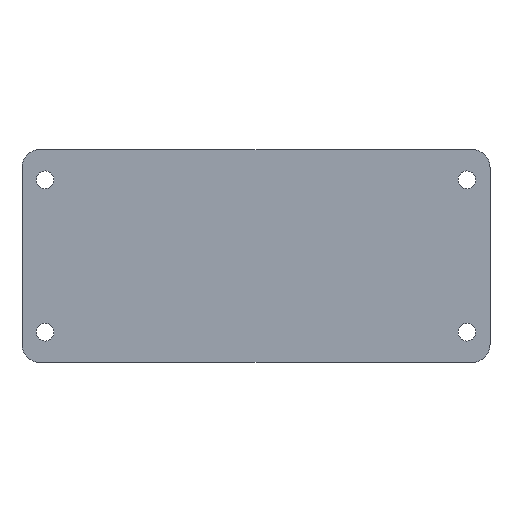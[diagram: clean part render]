
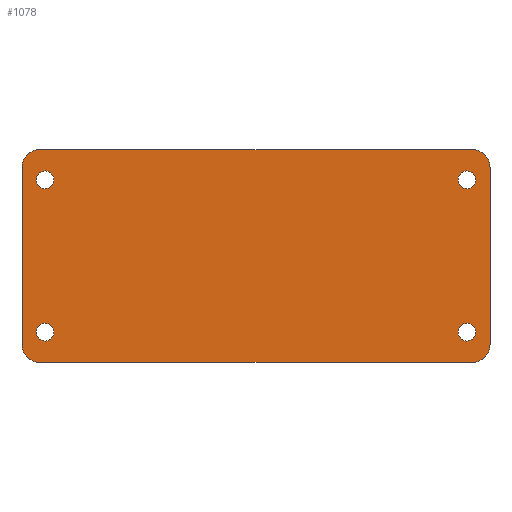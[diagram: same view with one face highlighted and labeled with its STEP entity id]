
A CAD part, front view. The second image highlights one B-rep face of the part: STEP entity #1078.
In plain terms, the highlighted planar face has unit normal (0, -1, 0).
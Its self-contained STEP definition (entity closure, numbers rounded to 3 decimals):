
#1 = FACE_BOUND ( 'NONE', #607, .T. ) ;
#9 = CARTESIAN_POINT ( 'NONE',  ( 61., 0., 30. ) ) ;
#52 = DIRECTION ( 'NONE',  ( 0., 0., 1. ) ) ;
#57 = VECTOR ( 'NONE', #1425, 1000. ) ;
#67 = CARTESIAN_POINT ( 'NONE',  ( 66., 0., -30. ) ) ;
#80 = DIRECTION ( 'NONE',  ( 0., 0., 1. ) ) ;
#81 = FACE_BOUND ( 'NONE', #597, .T. ) ;
#110 = VERTEX_POINT ( 'NONE', #9 ) ;
#112 = DIRECTION ( 'NONE',  ( 0., -1., 0. ) ) ;
#121 = CIRCLE ( 'NONE', #1605, 2.5 ) ;
#124 = DIRECTION ( 'NONE',  ( 0., 0., 1. ) ) ;
#144 = EDGE_CURVE ( 'NONE', #452, #1153, #650, .T. ) ;
#196 = VERTEX_POINT ( 'NONE', #1726 ) ;
#198 = ORIENTED_EDGE ( 'NONE', *, *, #1049, .T. ) ;
#242 = DIRECTION ( 'NONE',  ( 0., 0., 1. ) ) ;
#248 = CARTESIAN_POINT ( 'NONE',  ( -61., 0., -25. ) ) ;
#253 = ORIENTED_EDGE ( 'NONE', *, *, #1187, .T. ) ;
#262 = DIRECTION ( 'NONE',  ( 0., 1., 0. ) ) ;
#263 = DIRECTION ( 'NONE',  ( 0., -1., 0. ) ) ;
#290 = VERTEX_POINT ( 'NONE', #909 ) ;
#296 = CIRCLE ( 'NONE', #1358, 2.5 ) ;
#305 = AXIS2_PLACEMENT_3D ( 'NONE', #248, #112, #991 ) ;
#334 = VERTEX_POINT ( 'NONE', #1705 ) ;
#367 = CARTESIAN_POINT ( 'NONE',  ( -61., 0., 30. ) ) ;
#394 = CARTESIAN_POINT ( 'NONE',  ( 61., 0., -25. ) ) ;
#408 = DIRECTION ( 'NONE',  ( 0., 1., 0. ) ) ;
#416 = ORIENTED_EDGE ( 'NONE', *, *, #1098, .T. ) ;
#435 = EDGE_CURVE ( 'NONE', #1153, #452, #296, .T. ) ;
#436 = EDGE_CURVE ( 'NONE', #334, #1556, #1105, .T. ) ;
#452 = VERTEX_POINT ( 'NONE', #593 ) ;
#481 = EDGE_CURVE ( 'NONE', #888, #290, #1608, .T. ) ;
#512 = ORIENTED_EDGE ( 'NONE', *, *, #435, .T. ) ;
#517 = PLANE ( 'NONE',  #541 ) ;
#523 = VECTOR ( 'NONE', #1626, 1000. ) ;
#525 = DIRECTION ( 'NONE',  ( 0., 0., 1. ) ) ;
#536 = CARTESIAN_POINT ( 'NONE',  ( -66., 0., -25. ) ) ;
#541 = AXIS2_PLACEMENT_3D ( 'NONE', #1374, #1786, #967 ) ;
#555 = DIRECTION ( 'NONE',  ( 1., 0., 0. ) ) ;
#569 = EDGE_CURVE ( 'NONE', #196, #917, #620, .T. ) ;
#570 = VERTEX_POINT ( 'NONE', #600 ) ;
#574 = VERTEX_POINT ( 'NONE', #761 ) ;
#593 = CARTESIAN_POINT ( 'NONE',  ( -59.5, 0., 24. ) ) ;
#595 = CIRCLE ( 'NONE', #1193, 2.5 ) ;
#597 = EDGE_LOOP ( 'NONE', ( #723, #1202 ) ) ;
#599 = EDGE_CURVE ( 'NONE', #1334, #1556, #1385, .T. ) ;
#600 = CARTESIAN_POINT ( 'NONE',  ( 59.5, 0., 24. ) ) ;
#601 = ORIENTED_EDGE ( 'NONE', *, *, #599, .T. ) ;
#607 = EDGE_LOOP ( 'NONE', ( #253, #1189 ) ) ;
#620 = CIRCLE ( 'NONE', #1584, 2.5 ) ;
#650 = CIRCLE ( 'NONE', #1343, 2.5 ) ;
#652 = AXIS2_PLACEMENT_3D ( 'NONE', #1446, #1438, #242 ) ;
#670 = CARTESIAN_POINT ( 'NONE',  ( 66., 0., 30. ) ) ;
#671 = ORIENTED_EDGE ( 'NONE', *, *, #680, .T. ) ;
#679 = CARTESIAN_POINT ( 'NONE',  ( -59.5, 0., -19. ) ) ;
#680 = EDGE_CURVE ( 'NONE', #574, #570, #1488, .T. ) ;
#712 = LINE ( 'NONE', #1120, #57 ) ;
#715 = ORIENTED_EDGE ( 'NONE', *, *, #144, .T. ) ;
#723 = ORIENTED_EDGE ( 'NONE', *, *, #919, .T. ) ;
#724 = VECTOR ( 'NONE', #1505, 1000. ) ;
#725 = LINE ( 'NONE', #67, #523 ) ;
#737 = FACE_BOUND ( 'NONE', #771, .T. ) ;
#752 = ORIENTED_EDGE ( 'NONE', *, *, #836, .F. ) ;
#761 = CARTESIAN_POINT ( 'NONE',  ( 59.5, 0., 19. ) ) ;
#762 = CARTESIAN_POINT ( 'NONE',  ( -59.5, 0., 21.5 ) ) ;
#771 = EDGE_LOOP ( 'NONE', ( #416, #671 ) ) ;
#776 = FACE_OUTER_BOUND ( 'NONE', #1177, .T. ) ;
#799 = EDGE_CURVE ( 'NONE', #1727, #1447, #1255, .T. ) ;
#811 = VECTOR ( 'NONE', #555, 1000. ) ;
#836 = EDGE_CURVE ( 'NONE', #1727, #290, #712, .T. ) ;
#843 = AXIS2_PLACEMENT_3D ( 'NONE', #1316, #408, #1470 ) ;
#868 = CIRCLE ( 'NONE', #1757, 5. ) ;
#881 = ORIENTED_EDGE ( 'NONE', *, *, #799, .T. ) ;
#888 = VERTEX_POINT ( 'NONE', #367 ) ;
#894 = FACE_BOUND ( 'NONE', #1711, .T. ) ;
#909 = CARTESIAN_POINT ( 'NONE',  ( -66., 0., 25. ) ) ;
#917 = VERTEX_POINT ( 'NONE', #679 ) ;
#919 = EDGE_CURVE ( 'NONE', #1350, #1408, #121, .T. ) ;
#923 = CARTESIAN_POINT ( 'NONE',  ( 66., 0., -25. ) ) ;
#924 = AXIS2_PLACEMENT_3D ( 'NONE', #1315, #1218, #1580 ) ;
#967 = DIRECTION ( 'NONE',  ( 0., 0., 1. ) ) ;
#981 = ORIENTED_EDGE ( 'NONE', *, *, #436, .F. ) ;
#991 = DIRECTION ( 'NONE',  ( 0., 0., 1. ) ) ;
#1017 = ORIENTED_EDGE ( 'NONE', *, *, #481, .T. ) ;
#1032 = CARTESIAN_POINT ( 'NONE',  ( 59.5, 0., -19. ) ) ;
#1045 = CARTESIAN_POINT ( 'NONE',  ( 59.5, 0., -24. ) ) ;
#1049 = EDGE_CURVE ( 'NONE', #334, #110, #868, .T. ) ;
#1059 = DIRECTION ( 'NONE',  ( 0., 1., 0. ) ) ;
#1063 = CARTESIAN_POINT ( 'NONE',  ( 59.5, 0., 21.5 ) ) ;
#1078 = ADVANCED_FACE ( 'NONE', ( #81, #737, #894, #1, #776 ), #517, .F. ) ;
#1093 = EDGE_CURVE ( 'NONE', #1408, #1350, #1233, .T. ) ;
#1098 = EDGE_CURVE ( 'NONE', #570, #574, #1264, .T. ) ;
#1105 = LINE ( 'NONE', #670, #724 ) ;
#1117 = CARTESIAN_POINT ( 'NONE',  ( -61., 0., -30. ) ) ;
#1120 = CARTESIAN_POINT ( 'NONE',  ( -66., 0., 30. ) ) ;
#1153 = VERTEX_POINT ( 'NONE', #1199 ) ;
#1155 = CARTESIAN_POINT ( 'NONE',  ( 61., 0., 25. ) ) ;
#1161 = CARTESIAN_POINT ( 'NONE',  ( 59.5, 0., -21.5 ) ) ;
#1164 = DIRECTION ( 'NONE',  ( 0., 0., 1. ) ) ;
#1177 = EDGE_LOOP ( 'NONE', ( #1607, #601, #981, #198, #1677, #1017, #752, #881 ) ) ;
#1187 = EDGE_CURVE ( 'NONE', #917, #196, #595, .T. ) ;
#1189 = ORIENTED_EDGE ( 'NONE', *, *, #569, .T. ) ;
#1193 = AXIS2_PLACEMENT_3D ( 'NONE', #1597, #262, #1270 ) ;
#1199 = CARTESIAN_POINT ( 'NONE',  ( -59.5, 0., 19. ) ) ;
#1202 = ORIENTED_EDGE ( 'NONE', *, *, #1093, .T. ) ;
#1209 = LINE ( 'NONE', #1823, #811 ) ;
#1218 = DIRECTION ( 'NONE',  ( 0., -1., 0. ) ) ;
#1228 = CARTESIAN_POINT ( 'NONE',  ( -59.5, 0., -21.5 ) ) ;
#1233 = CIRCLE ( 'NONE', #652, 2.5 ) ;
#1251 = DIRECTION ( 'NONE',  ( 0., 1., 0. ) ) ;
#1255 = CIRCLE ( 'NONE', #305, 5. ) ;
#1264 = CIRCLE ( 'NONE', #843, 2.5 ) ;
#1270 = DIRECTION ( 'NONE',  ( 0., 0., 1. ) ) ;
#1283 = AXIS2_PLACEMENT_3D ( 'NONE', #1063, #1401, #1164 ) ;
#1298 = EDGE_CURVE ( 'NONE', #888, #110, #1209, .T. ) ;
#1315 = CARTESIAN_POINT ( 'NONE',  ( -61., 0., 25. ) ) ;
#1316 = CARTESIAN_POINT ( 'NONE',  ( 59.5, 0., 21.5 ) ) ;
#1319 = CARTESIAN_POINT ( 'NONE',  ( 61., 0., -30. ) ) ;
#1334 = VERTEX_POINT ( 'NONE', #1319 ) ;
#1343 = AXIS2_PLACEMENT_3D ( 'NONE', #1464, #1713, #1773 ) ;
#1350 = VERTEX_POINT ( 'NONE', #1032 ) ;
#1358 = AXIS2_PLACEMENT_3D ( 'NONE', #762, #1695, #525 ) ;
#1374 = CARTESIAN_POINT ( 'NONE',  ( 0., 0., 0. ) ) ;
#1385 = CIRCLE ( 'NONE', #1475, 5. ) ;
#1401 = DIRECTION ( 'NONE',  ( 0., 1., 0. ) ) ;
#1408 = VERTEX_POINT ( 'NONE', #1045 ) ;
#1425 = DIRECTION ( 'NONE',  ( 0., 0., 1. ) ) ;
#1438 = DIRECTION ( 'NONE',  ( 0., 1., 0. ) ) ;
#1446 = CARTESIAN_POINT ( 'NONE',  ( 59.5, 0., -21.5 ) ) ;
#1447 = VERTEX_POINT ( 'NONE', #1117 ) ;
#1464 = CARTESIAN_POINT ( 'NONE',  ( -59.5, 0., 21.5 ) ) ;
#1470 = DIRECTION ( 'NONE',  ( 0., 0., 1. ) ) ;
#1471 = EDGE_CURVE ( 'NONE', #1334, #1447, #725, .T. ) ;
#1475 = AXIS2_PLACEMENT_3D ( 'NONE', #394, #263, #124 ) ;
#1488 = CIRCLE ( 'NONE', #1283, 2.5 ) ;
#1505 = DIRECTION ( 'NONE',  ( 0., 0., -1. ) ) ;
#1556 = VERTEX_POINT ( 'NONE', #923 ) ;
#1580 = DIRECTION ( 'NONE',  ( 0., 0., 1. ) ) ;
#1584 = AXIS2_PLACEMENT_3D ( 'NONE', #1228, #1059, #1636 ) ;
#1597 = CARTESIAN_POINT ( 'NONE',  ( -59.5, 0., -21.5 ) ) ;
#1605 = AXIS2_PLACEMENT_3D ( 'NONE', #1161, #1251, #80 ) ;
#1607 = ORIENTED_EDGE ( 'NONE', *, *, #1471, .F. ) ;
#1608 = CIRCLE ( 'NONE', #924, 5. ) ;
#1626 = DIRECTION ( 'NONE',  ( -1., 0., 0. ) ) ;
#1636 = DIRECTION ( 'NONE',  ( 0., 0., 1. ) ) ;
#1677 = ORIENTED_EDGE ( 'NONE', *, *, #1298, .F. ) ;
#1695 = DIRECTION ( 'NONE',  ( 0., 1., 0. ) ) ;
#1705 = CARTESIAN_POINT ( 'NONE',  ( 66., 0., 25. ) ) ;
#1711 = EDGE_LOOP ( 'NONE', ( #715, #512 ) ) ;
#1713 = DIRECTION ( 'NONE',  ( 0., 1., 0. ) ) ;
#1726 = CARTESIAN_POINT ( 'NONE',  ( -59.5, 0., -24. ) ) ;
#1727 = VERTEX_POINT ( 'NONE', #536 ) ;
#1757 = AXIS2_PLACEMENT_3D ( 'NONE', #1155, #1832, #52 ) ;
#1773 = DIRECTION ( 'NONE',  ( 0., 0., 1. ) ) ;
#1786 = DIRECTION ( 'NONE',  ( 0., 1., 0. ) ) ;
#1823 = CARTESIAN_POINT ( 'NONE',  ( 66., 0., 30. ) ) ;
#1832 = DIRECTION ( 'NONE',  ( 0., -1., 0. ) ) ;
